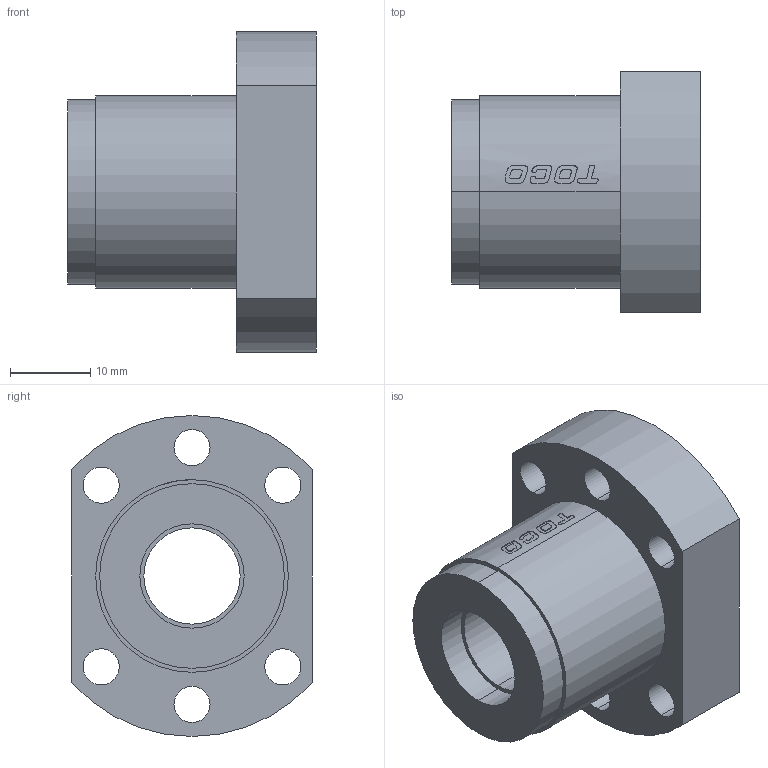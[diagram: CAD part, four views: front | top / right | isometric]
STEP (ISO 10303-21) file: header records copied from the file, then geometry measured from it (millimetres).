
FILE_DESCRIPTION (( 'STEP AP214' ), '1' );
FILE_NAME ('7.3102 Kuularuuvimutteri STSR1205B1D.STEP', '2026-03-02T13:02:14', ( '' ), ( '' ), 'SwSTEP 2.0', 'SolidWorks 2025', '' );
FILE_SCHEMA (( 'AUTOMOTIVE_DESIGN' ));
Length unit declared in the file: millimetre
Products named in the file (1): 7.3102 Kuularuuvimutteri STSR1205B1D
Bounding box: 31 x 30 x 40 mm (x, y, z)
Volume: 15251.8 mm3; surface area: 7651.6 mm2
Topology: 2 solids, 2 shells, 88 faces, 219 edges, 146 vertices
Faces by surface type: cylinder 37, bspline 26, plane 25
Entity records: 9111 total; most frequent: CARTESIAN_POINT 7118, ORIENTED_EDGE 438, DIRECTION 325, EDGE_CURVE 219, VERTEX_POINT 146, AXIS2_PLACEMENT_3D 125, EDGE_LOOP 115, ADVANCED_FACE 88
